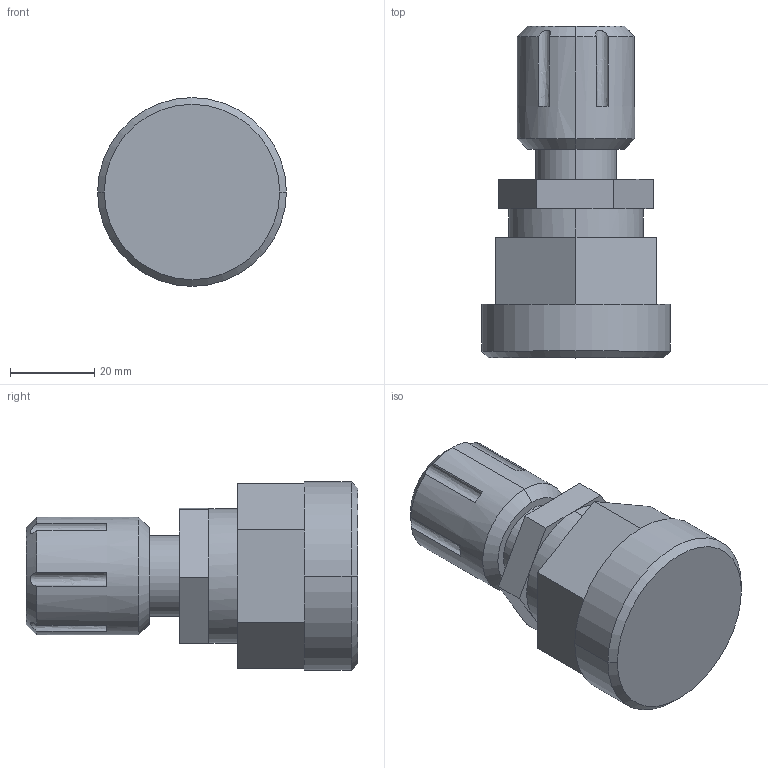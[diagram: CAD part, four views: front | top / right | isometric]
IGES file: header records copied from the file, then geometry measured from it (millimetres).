
Start section: SolidWorks IGES file using analytic representation for surfaces
Global section: file name: S:\Product Visuals\REVISED-60L-TOP-MOUNT-FITTINGS\flaretek\12-flaretek-with-top-mount-adapter.IGS; native system: SolidWorks 2012; preprocessor: SolidWorks 2012; author: rachel.dressel; date: 121127.105625; units: inch
Bounding box: 44.7 x 78.59 x 44.7 mm (x, y, z)
Volume: 69220.1 mm3; surface area: 12301.8 mm2
Topology: 1 solids, 1 shells, 56 faces, 135 edges, 86 vertices
Faces by surface type: plane 31, revolution 25
